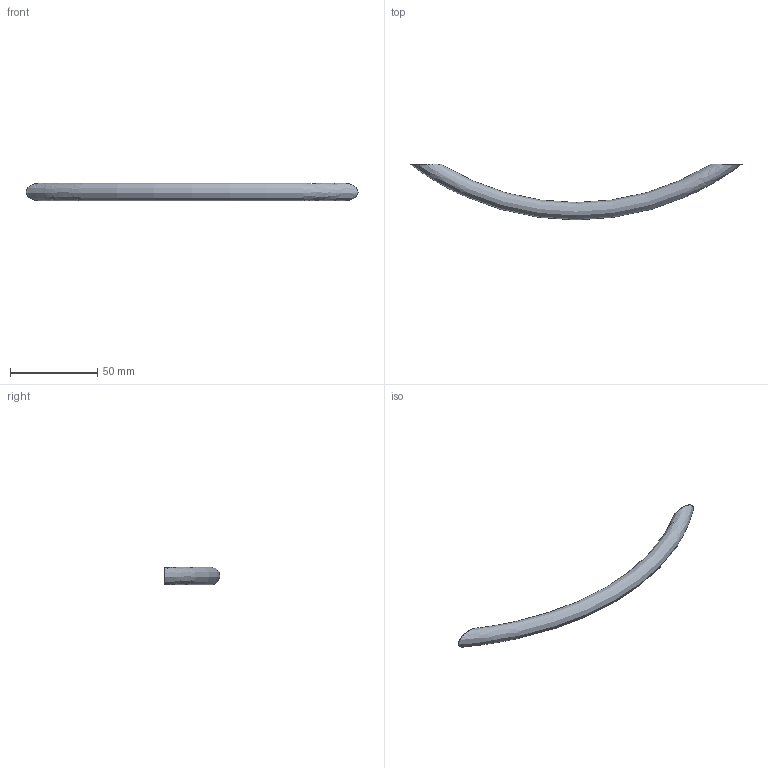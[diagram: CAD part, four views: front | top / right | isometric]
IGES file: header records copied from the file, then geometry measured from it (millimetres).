
Start section: Data from Parasolid IGES Translator 15.0.47, Copyright(c) 2006 Siemens P LM Software. All Rights Reserved.
Global section: file name:  9070451.igs; native system:  By UGS Corp.; preprocessor: XPlus GENERIC/IGES 3.0; author: Noname; organization: Noname; date: 20140122.155207; units: millimetre
Bounding box: 190 x 31.95 x 10 mm (x, y, z)
Surface area: 6197.3 mm2 (no closed solid volume)
Topology: 0 solids, 0 shells, 7 faces, 18 edges, 14 vertices
Faces by surface type: extrusion 4, revolution 3
